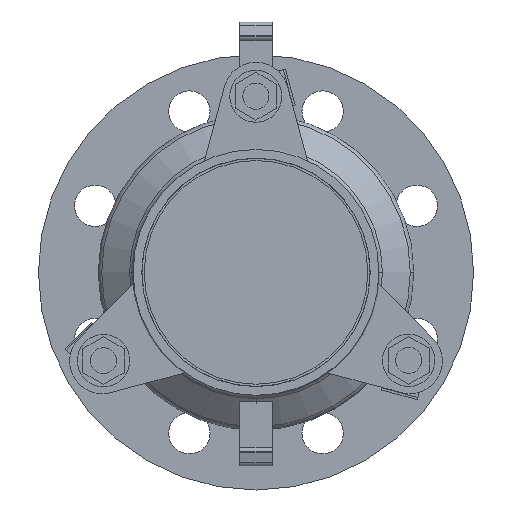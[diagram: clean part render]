
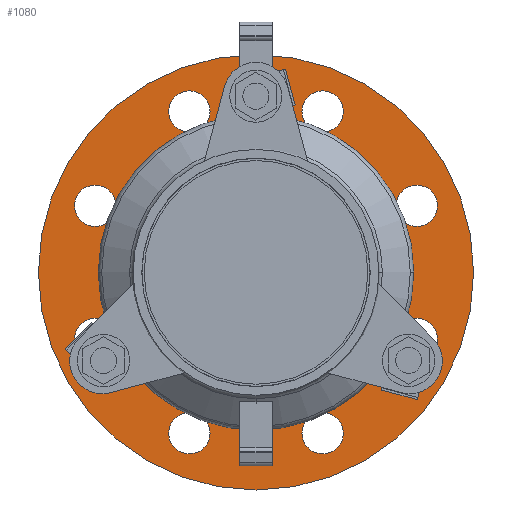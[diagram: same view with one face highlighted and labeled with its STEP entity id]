
A CAD part, left-side view. The second image highlights one B-rep face of the part: STEP entity #1080.
In plain terms, the highlighted planar face has unit normal (-1, 0, 0).
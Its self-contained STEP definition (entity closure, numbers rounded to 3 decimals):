
#1080=ADVANCED_FACE('',(#2088,#2089,#2090,#2091,#2092,#2093,#2094,#2095,#2096,#2097),#2098,.T.);
#2088=FACE_BOUND('',#3291,.T.);
#2089=FACE_BOUND('',#3292,.T.);
#2090=FACE_BOUND('',#3293,.T.);
#2091=FACE_BOUND('',#3294,.T.);
#2092=FACE_BOUND('',#3295,.T.);
#2093=FACE_BOUND('',#3296,.T.);
#2094=FACE_BOUND('',#3297,.T.);
#2095=FACE_BOUND('',#3298,.T.);
#2096=FACE_BOUND('',#3299,.T.);
#2097=FACE_OUTER_BOUND('',#3300,.T.);
#2098=PLANE('',#3301);
#3291=EDGE_LOOP('',(#5207,#5208));
#3292=EDGE_LOOP('',(#5209,#5210));
#3293=EDGE_LOOP('',(#5211,#5212));
#3294=EDGE_LOOP('',(#5213,#5214));
#3295=EDGE_LOOP('',(#5215,#5216));
#3296=EDGE_LOOP('',(#5217,#5218));
#3297=EDGE_LOOP('',(#5219,#5220));
#3298=EDGE_LOOP('',(#5221,#5222));
#3299=EDGE_LOOP('',(#5223,#5224));
#3300=EDGE_LOOP('',(#5225,#5226));
#3301=AXIS2_PLACEMENT_3D('',#5227,#5228,#5229);
#5207=ORIENTED_EDGE('',*,*,#6551,.T.);
#5208=ORIENTED_EDGE('',*,*,#7128,.T.);
#5209=ORIENTED_EDGE('',*,*,#7129,.T.);
#5210=ORIENTED_EDGE('',*,*,#6945,.T.);
#5211=ORIENTED_EDGE('',*,*,#7130,.T.);
#5212=ORIENTED_EDGE('',*,*,#6384,.T.);
#5213=ORIENTED_EDGE('',*,*,#7131,.T.);
#5214=ORIENTED_EDGE('',*,*,#7132,.T.);
#5215=ORIENTED_EDGE('',*,*,#7133,.T.);
#5216=ORIENTED_EDGE('',*,*,#6564,.T.);
#5217=ORIENTED_EDGE('',*,*,#7058,.T.);
#5218=ORIENTED_EDGE('',*,*,#6813,.T.);
#5219=ORIENTED_EDGE('',*,*,#6960,.T.);
#5220=ORIENTED_EDGE('',*,*,#7090,.T.);
#5221=ORIENTED_EDGE('',*,*,#6962,.T.);
#5222=ORIENTED_EDGE('',*,*,#6694,.T.);
#5223=ORIENTED_EDGE('',*,*,#7134,.T.);
#5224=ORIENTED_EDGE('',*,*,#7135,.T.);
#5225=ORIENTED_EDGE('',*,*,#6649,.F.);
#5226=ORIENTED_EDGE('',*,*,#7136,.F.);
#5227=CARTESIAN_POINT('',(-19.0,0.0,0.));
#5228=DIRECTION('',(-1.0,0.0,0.));
#5229=DIRECTION('',(0.,0.0,-1.0));
#6384=EDGE_CURVE('',#7422,#7419,#7423,.T.);
#6551=EDGE_CURVE('',#7712,#7717,#7719,.T.);
#6564=EDGE_CURVE('',#7740,#7737,#7741,.T.);
#6649=EDGE_CURVE('',#7876,#7878,#7879,.T.);
#6694=EDGE_CURVE('',#7953,#7950,#7954,.T.);
#6813=EDGE_CURVE('',#8146,#8143,#8147,.T.);
#6945=EDGE_CURVE('',#8339,#8337,#8340,.T.);
#6960=EDGE_CURVE('',#8355,#8357,#8359,.T.);
#6962=EDGE_CURVE('',#7950,#7953,#8361,.T.);
#7058=EDGE_CURVE('',#8143,#8146,#8488,.T.);
#7090=EDGE_CURVE('',#8357,#8355,#8533,.T.);
#7128=EDGE_CURVE('',#7717,#7712,#8581,.T.);
#7129=EDGE_CURVE('',#8337,#8339,#8582,.T.);
#7130=EDGE_CURVE('',#7419,#7422,#8583,.T.);
#7131=EDGE_CURVE('',#8584,#8585,#8586,.T.);
#7132=EDGE_CURVE('',#8585,#8584,#8587,.T.);
#7133=EDGE_CURVE('',#7737,#7740,#8588,.T.);
#7134=EDGE_CURVE('',#8589,#8590,#8591,.T.);
#7135=EDGE_CURVE('',#8590,#8589,#8592,.T.);
#7136=EDGE_CURVE('',#7878,#7876,#8593,.T.);
#7419=VERTEX_POINT('',#8915);
#7422=VERTEX_POINT('',#8919);
#7423=CIRCLE('',#8920,9.5);
#7712=VERTEX_POINT('',#9291);
#7717=VERTEX_POINT('',#9297);
#7719=CIRCLE('',#9300,9.5);
#7737=VERTEX_POINT('',#9323);
#7740=VERTEX_POINT('',#9327);
#7741=CIRCLE('',#9328,9.5);
#7876=VERTEX_POINT('',#9510);
#7878=VERTEX_POINT('',#9513);
#7879=CIRCLE('',#9514,100.0);
#7950=VERTEX_POINT('',#9604);
#7953=VERTEX_POINT('',#9608);
#7954=CIRCLE('',#9609,9.5);
#8143=VERTEX_POINT('',#9854);
#8146=VERTEX_POINT('',#9858);
#8147=CIRCLE('',#9859,9.5);
#8337=VERTEX_POINT('',#10101);
#8339=VERTEX_POINT('',#10104);
#8340=CIRCLE('',#10105,9.5);
#8355=VERTEX_POINT('',#10126);
#8357=VERTEX_POINT('',#10129);
#8359=CIRCLE('',#10132,9.5);
#8361=CIRCLE('',#10134,9.5);
#8488=CIRCLE('',#10310,9.5);
#8533=CIRCLE('',#10370,9.5);
#8581=CIRCLE('',#10432,9.5);
#8582=CIRCLE('',#10433,9.5);
#8583=CIRCLE('',#10434,9.5);
#8584=VERTEX_POINT('',#10435);
#8585=VERTEX_POINT('',#10436);
#8586=CIRCLE('',#10437,9.5);
#8587=CIRCLE('',#10438,9.5);
#8588=CIRCLE('',#10439,9.5);
#8589=VERTEX_POINT('',#10440);
#8590=VERTEX_POINT('',#10441);
#8591=CIRCLE('',#10442,40.0);
#8592=CIRCLE('',#10443,40.0);
#8593=CIRCLE('',#10444,100.0);
#8915=CARTESIAN_POINT('',(-19.0,-30.615,-83.41));
#8919=CARTESIAN_POINT('',(-19.0,-30.615,-64.41));
#8920=AXIS2_PLACEMENT_3D('',#10850,#10851,#10852);
#9291=CARTESIAN_POINT('',(-19.0,-73.91,21.115));
#9297=CARTESIAN_POINT('',(-19.0,-73.91,40.115));
#9300=AXIS2_PLACEMENT_3D('',#11084,#11085,#11086);
#9323=CARTESIAN_POINT('',(-19.0,73.91,-40.115));
#9327=CARTESIAN_POINT('',(-19.0,73.91,-21.115));
#9328=AXIS2_PLACEMENT_3D('',#11099,#11100,#11101);
#9510=CARTESIAN_POINT('',(-19.0,0.0,-100.0));
#9513=CARTESIAN_POINT('',(-19.0,0.,100.0));
#9514=AXIS2_PLACEMENT_3D('',#11195,#11196,#11197);
#9604=CARTESIAN_POINT('',(-19.0,-30.615,64.41));
#9608=CARTESIAN_POINT('',(-19.0,-30.615,83.41));
#9609=AXIS2_PLACEMENT_3D('',#11260,#11261,#11262);
#9854=CARTESIAN_POINT('',(-19.0,73.91,21.115));
#9858=CARTESIAN_POINT('',(-19.0,73.91,40.115));
#9859=AXIS2_PLACEMENT_3D('',#11419,#11420,#11421);
#10101=CARTESIAN_POINT('',(-19.0,-73.91,-40.115));
#10104=CARTESIAN_POINT('',(-19.0,-73.91,-21.115));
#10105=AXIS2_PLACEMENT_3D('',#11610,#11611,#11612);
#10126=CARTESIAN_POINT('',(-19.0,30.615,64.41));
#10129=CARTESIAN_POINT('',(-19.0,30.615,83.41));
#10132=AXIS2_PLACEMENT_3D('',#11624,#11625,#11626);
#10134=AXIS2_PLACEMENT_3D('',#11627,#11628,#11629);
#10310=AXIS2_PLACEMENT_3D('',#11724,#11725,#11726);
#10370=AXIS2_PLACEMENT_3D('',#11763,#11764,#11765);
#10432=AXIS2_PLACEMENT_3D('',#11807,#11808,#11809);
#10433=AXIS2_PLACEMENT_3D('',#11810,#11811,#11812);
#10434=AXIS2_PLACEMENT_3D('',#11813,#11814,#11815);
#10435=CARTESIAN_POINT('',(-19.0,30.615,-83.41));
#10436=CARTESIAN_POINT('',(-19.0,30.615,-64.41));
#10437=AXIS2_PLACEMENT_3D('',#11816,#11817,#11818);
#10438=AXIS2_PLACEMENT_3D('',#11819,#11820,#11821);
#10439=AXIS2_PLACEMENT_3D('',#11822,#11823,#11824);
#10440=CARTESIAN_POINT('',(-19.0,0.0,-40.0));
#10441=CARTESIAN_POINT('',(-19.0,0.,40.0));
#10442=AXIS2_PLACEMENT_3D('',#11825,#11826,#11827);
#10443=AXIS2_PLACEMENT_3D('',#11828,#11829,#11830);
#10444=AXIS2_PLACEMENT_3D('',#11831,#11832,#11833);
#10850=CARTESIAN_POINT('',(-19.0,-30.615,-73.91));
#10851=DIRECTION('',(1.0,0.0,0.));
#10852=DIRECTION('',(0.,0.0,-1.0));
#11084=CARTESIAN_POINT('',(-19.0,-73.91,30.615));
#11085=DIRECTION('',(1.0,0.0,0.));
#11086=DIRECTION('',(0.,0.0,-1.0));
#11099=CARTESIAN_POINT('',(-19.0,73.91,-30.615));
#11100=DIRECTION('',(1.0,0.0,0.));
#11101=DIRECTION('',(0.,0.0,-1.0));
#11195=CARTESIAN_POINT('',(-19.0,0.0,0.));
#11196=DIRECTION('',(1.0,0.0,0.));
#11197=DIRECTION('',(0.,0.0,-1.0));
#11260=CARTESIAN_POINT('',(-19.0,-30.615,73.91));
#11261=DIRECTION('',(1.0,0.0,0.));
#11262=DIRECTION('',(0.,0.0,-1.0));
#11419=CARTESIAN_POINT('',(-19.0,73.91,30.615));
#11420=DIRECTION('',(1.0,0.0,0.));
#11421=DIRECTION('',(0.,0.0,-1.0));
#11610=CARTESIAN_POINT('',(-19.0,-73.91,-30.615));
#11611=DIRECTION('',(1.0,0.0,0.));
#11612=DIRECTION('',(0.,0.0,-1.0));
#11624=CARTESIAN_POINT('',(-19.0,30.615,73.91));
#11625=DIRECTION('',(1.0,0.0,0.));
#11626=DIRECTION('',(0.,0.0,-1.0));
#11627=CARTESIAN_POINT('',(-19.0,-30.615,73.91));
#11628=DIRECTION('',(1.0,0.0,0.));
#11629=DIRECTION('',(0.,0.0,-1.0));
#11724=CARTESIAN_POINT('',(-19.0,73.91,30.615));
#11725=DIRECTION('',(1.0,0.0,0.));
#11726=DIRECTION('',(0.,0.0,-1.0));
#11763=CARTESIAN_POINT('',(-19.0,30.615,73.91));
#11764=DIRECTION('',(1.0,0.0,0.));
#11765=DIRECTION('',(0.,0.0,-1.0));
#11807=CARTESIAN_POINT('',(-19.0,-73.91,30.615));
#11808=DIRECTION('',(1.0,0.0,0.));
#11809=DIRECTION('',(0.,0.0,-1.0));
#11810=CARTESIAN_POINT('',(-19.0,-73.91,-30.615));
#11811=DIRECTION('',(1.0,0.0,0.));
#11812=DIRECTION('',(0.,0.0,-1.0));
#11813=CARTESIAN_POINT('',(-19.0,-30.615,-73.91));
#11814=DIRECTION('',(1.0,0.0,0.));
#11815=DIRECTION('',(0.,0.0,-1.0));
#11816=CARTESIAN_POINT('',(-19.0,30.615,-73.91));
#11817=DIRECTION('',(1.0,0.0,0.));
#11818=DIRECTION('',(0.,0.0,-1.0));
#11819=CARTESIAN_POINT('',(-19.0,30.615,-73.91));
#11820=DIRECTION('',(1.0,0.0,0.));
#11821=DIRECTION('',(0.,0.0,-1.0));
#11822=CARTESIAN_POINT('',(-19.0,73.91,-30.615));
#11823=DIRECTION('',(1.0,0.0,0.));
#11824=DIRECTION('',(0.,0.0,-1.0));
#11825=CARTESIAN_POINT('',(-19.0,0.0,0.));
#11826=DIRECTION('',(1.0,0.0,0.));
#11827=DIRECTION('',(0.,0.0,-1.0));
#11828=CARTESIAN_POINT('',(-19.0,0.0,0.));
#11829=DIRECTION('',(1.0,0.0,0.));
#11830=DIRECTION('',(0.,0.0,-1.0));
#11831=CARTESIAN_POINT('',(-19.0,0.0,0.));
#11832=DIRECTION('',(1.0,0.0,0.));
#11833=DIRECTION('',(0.,0.0,-1.0));
